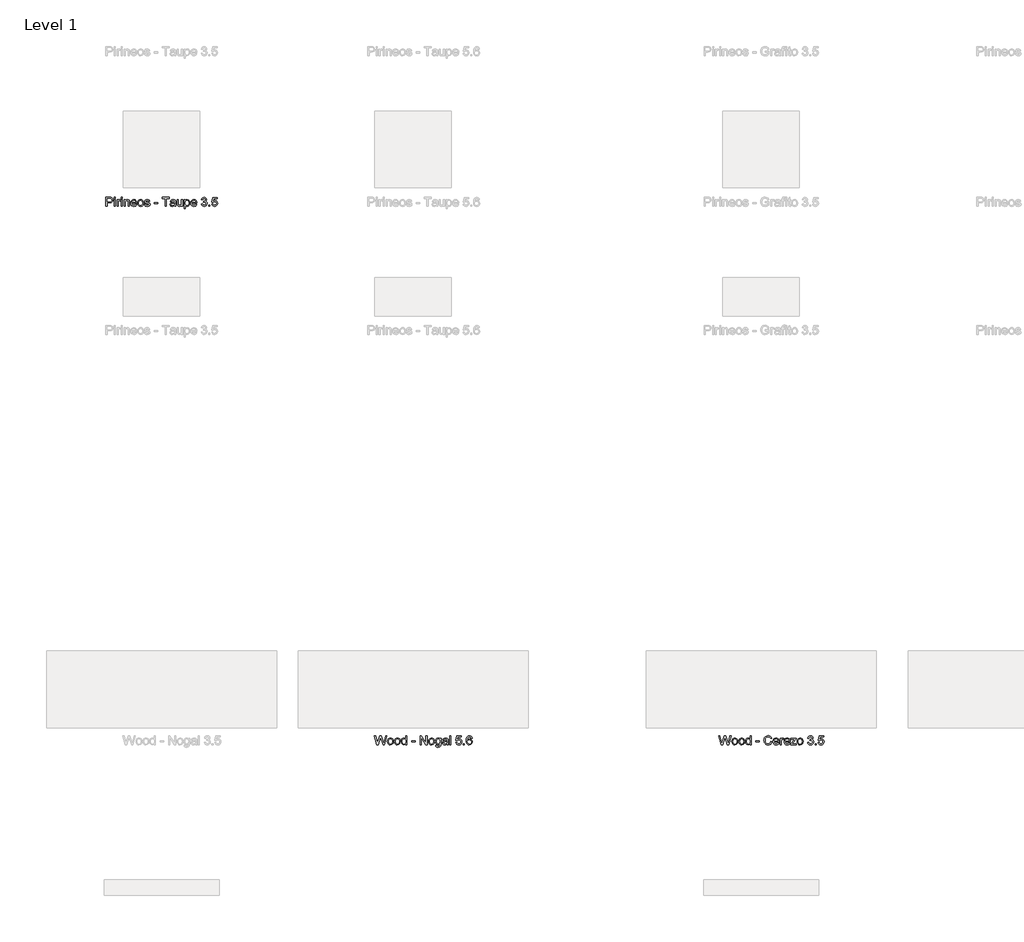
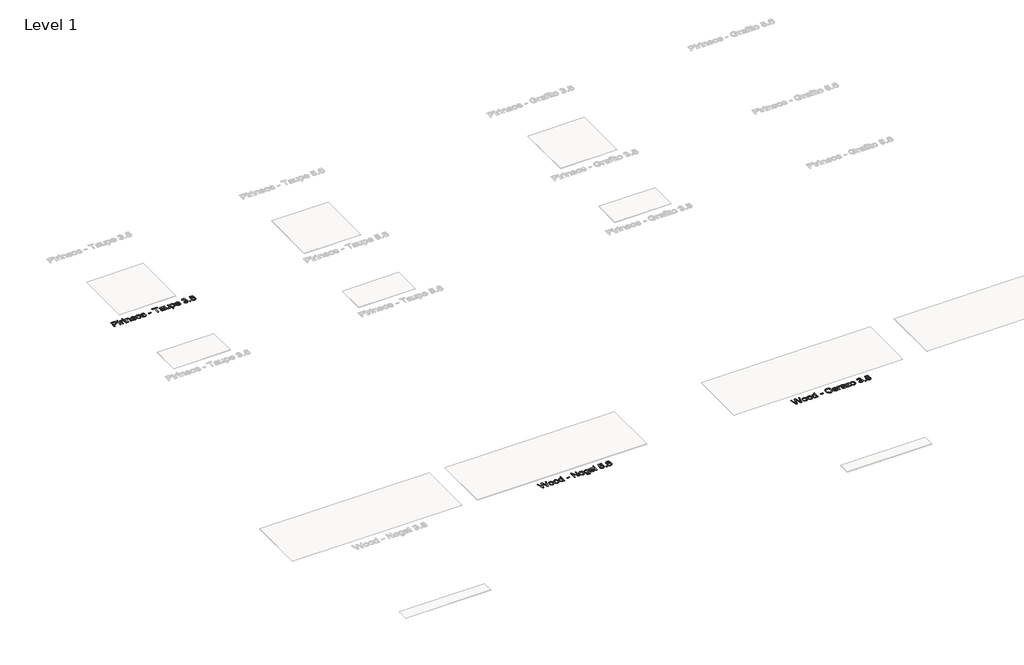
# One storey, part 25 of 80: 3 proxies.
"""IFC4 building model written with IfcOpenShell, lengths in millimetres."""

from ifc_helpers import new_model, si_unit, origin, origin_with_axes, place, context, project, spatial, polyline, outline, extrude, element, save

model = new_model("IFC4")

# Units and contexts
model_context = context("Model", 3, world=origin())
ifc_project = project(units=[si_unit("LENGTHUNIT", "METRE", prefix="MILLI")], contexts=[model_context])

# Site, building, storey
site = spatial("IfcSite", under=ifc_project)
building = spatial("IfcBuilding", under=site)
storey = spatial("IfcBuildingStorey", under=building, Name="Level 1", Elevation=0.0)

# Proxies
placement = place(None, origin())
element("IfcBuildingElementProxy", 1, Name="24\" Arial", ObjectType="24\" Arial", at=placement, inside=storey, context=model_context, shape_type="SweptSolid", body=[
    extrude(outline(polyline([(-7596.3934156, -7643.0201601), (-7628.6145694, -7524.8663139), (-7613.3838002, -7524.8663139), (-7594.6914925, -7602.5201601), (-7588.9222617, -7626.4913139), (-7582.7491848, -7605.2893908), (-7559.3261079, -7524.8663139), (-7537.3741848, -7524.8663139), (-7520.3549541, -7583.1643908), (-7507.6914925, -7626.4913139), (-7502.0953387, -7603.2124678), (-7483.2299541, -7524.8663139), (-7467.9991848, -7524.8663139), (-7500.2491848, -7643.0201601), (-7516.028031, -7643.0201601), (-7544.3549541, -7551.8663139), (-7548.3068771, -7539.1451601), (-7552.7491848, -7554.4624678), (-7578.5664925, -7643.0201601), (-7596.3934156, -7643.0201601)])), origin_with_axes(), (0.0, 0.0, 1.0), 2.0),
    extrude(outline(polyline([(-7458.7684156, -7599.6355447), (-7455.5737041, -7578.7148716), (-7445.9895694, -7564.0105447), (-7434.1482233, -7556.8062178), (-7419.9703387, -7554.4047755), (-7404.4547137, -7557.3290543), (-7392.0616848, -7566.1018908), (-7383.9378867, -7580.0309774), (-7381.2299541, -7598.4240062), (-7386.0184156, -7624.7028524), (-7399.965531, -7639.5730447), (-7419.9703387, -7644.8663139), (-7435.6734637, -7641.9528524), (-7448.0520694, -7633.2124678), (-7456.0893291, -7618.9913139), (-7458.7684156, -7599.6355447)]), holes=[polyline([(-7443.9991848, -7599.6066985), (-7442.2900502, -7612.9732851), (-7437.1626464, -7622.4961216), (-7429.4463002, -7628.1968428), (-7419.9703387, -7630.0970831), (-7410.5376464, -7628.1860255), (-7402.8357233, -7622.4528524), (-7397.7083194, -7612.8038139), (-7395.9991848, -7599.1451601), (-7397.7191367, -7586.1679966), (-7402.8789925, -7576.7749678), (-7410.5917329, -7571.0742466), (-7419.9703387, -7569.1740062), (-7429.4463002, -7571.0670351), (-7437.1626464, -7576.7461216), (-7442.2900502, -7586.2473235), (-7443.9991848, -7599.6066985)])]), origin_with_axes(), (0.0, 0.0, 1.0), 2.0),
    extrude(outline(polyline([(-7368.3068771, -7599.6355447), (-7365.1121656, -7578.7148716), (-7355.528031, -7564.0105447), (-7343.6866848, -7556.8062178), (-7329.5088002, -7554.4047755), (-7313.9931752, -7557.3290543), (-7301.6001464, -7566.1018908), (-7293.4763483, -7580.0309774), (-7290.7684156, -7598.4240062), (-7295.5568771, -7624.7028524), (-7309.5039925, -7639.5730447), (-7329.5088002, -7644.8663139), (-7345.2119252, -7641.9528524), (-7357.590531, -7633.2124678), (-7365.6277906, -7618.9913139), (-7368.3068771, -7599.6355447)]), holes=[polyline([(-7353.5376464, -7599.6066985), (-7351.8285117, -7612.9732851), (-7346.7011079, -7622.4961216), (-7338.9847617, -7628.1968428), (-7329.5088002, -7630.0970831), (-7320.0761079, -7628.1860255), (-7312.3741848, -7622.4528524), (-7307.246781, -7612.8038139), (-7305.5376464, -7599.1451601), (-7307.2575983, -7586.1679966), (-7312.4174541, -7576.7749678), (-7320.1301944, -7571.0742466), (-7329.5088002, -7569.1740062), (-7338.9847617, -7571.0670351), (-7346.7011079, -7576.7461216), (-7351.8285117, -7586.2473235), (-7353.5376464, -7599.6066985)])]), origin_with_axes(), (0.0, 0.0, 1.0), 2.0),
    extrude(outline(polyline([(-7220.6145694, -7643.0201601), (-7220.6145694, -7629.0874678), (-7230.3862041, -7640.9216024), (-7243.8934156, -7644.8663139), (-7262.1818771, -7639.1547755), (-7275.1049541, -7623.2172755), (-7279.6914925, -7599.7220831), (-7275.465531, -7576.2124678), (-7270.1866848, -7566.8879485), (-7262.8020694, -7560.0297755), (-7243.9511079, -7554.4047755), (-7230.3357233, -7558.4288139), (-7220.6145694, -7568.8855447), (-7220.6145694, -7524.8663139), (-7205.8453387, -7524.8663139), (-7205.8453387, -7643.0201601), (-7220.6145694, -7643.0201601)]), holes=[polyline([(-7264.9222617, -7599.6643908), (-7263.2563964, -7613.0237658), (-7258.2588002, -7622.5249678), (-7250.996781, -7628.2040543), (-7242.5376464, -7630.0970831), (-7234.0821175, -7628.2905928), (-7227.0039925, -7622.8711216), (-7222.2119252, -7613.7377081), (-7220.6145694, -7600.7893908), (-7222.2407714, -7586.6331408), (-7227.1193771, -7576.818237), (-7234.3777906, -7571.0850639), (-7243.1434156, -7569.1740062), (-7251.6890887, -7571.0093428), (-7258.6914925, -7576.5153524), (-7263.3645694, -7585.9732851), (-7264.9222617, -7599.6643908)])]), origin_with_axes(), (0.0, 0.0, 1.0), 2.0),
    extrude(outline(polyline([(-7144.9222617, -7607.943237), (-7144.9222617, -7593.1740062), (-7098.7684156, -7593.1740062), (-7098.7684156, -7607.943237), (-7144.9222617, -7607.943237)])), origin_with_axes(), (0.0, 0.0, 1.0), 2.0),
    extrude(outline(polyline([(-7034.153031, -7643.0201601), (-7034.153031, -7524.8663139), (-7018.3453387, -7524.8663139), (-6956.6145694, -7618.4720831), (-6956.6145694, -7524.8663139), (-6941.8453387, -7524.8663139), (-6941.8453387, -7643.0201601), (-6957.653031, -7643.0201601), (-7019.3838002, -7549.3855447), (-7019.3838002, -7643.0201601), (-7034.153031, -7643.0201601)])), origin_with_axes(), (0.0, 0.0, 1.0), 2.0),
    extrude(outline(polyline([(-6921.5376464, -7599.6355447), (-6918.3429348, -7578.7148716), (-6908.7588002, -7564.0105447), (-6896.9174541, -7556.8062178), (-6882.7395694, -7554.4047755), (-6867.2239444, -7557.3290543), (-6854.8309156, -7566.1018908), (-6846.7071175, -7580.0309774), (-6843.9991848, -7598.4240062), (-6848.7876464, -7624.7028524), (-6862.7347617, -7639.5730447), (-6882.7395694, -7644.8663139), (-6898.4426944, -7641.9528524), (-6910.8213002, -7633.2124678), (-6918.8585598, -7618.9913139), (-6921.5376464, -7599.6355447)]), holes=[polyline([(-6906.7684156, -7599.6066985), (-6905.059281, -7612.9732851), (-6899.9318771, -7622.4961216), (-6892.215531, -7628.1968428), (-6882.7395694, -7630.0970831), (-6873.3068771, -7628.1860255), (-6865.6049541, -7622.4528524), (-6860.4775502, -7612.8038139), (-6858.7684156, -7599.1451601), (-6860.4883675, -7586.1679966), (-6865.6482233, -7576.7749678), (-6873.3609637, -7571.0742466), (-6882.7395694, -7569.1740062), (-6892.215531, -7571.0670351), (-6899.9318771, -7576.7461216), (-6905.059281, -7586.2473235), (-6906.7684156, -7599.6066985)])]), origin_with_axes(), (0.0, 0.0, 1.0), 2.0),
    extrude(outline(polyline([(-6831.0761079, -7650.4047755), (-6816.3068771, -7652.2509293), (-6811.5184156, -7660.0393908), (-6797.1818771, -7663.3278524), (-6782.0664925, -7659.6066985), (-6774.8549541, -7649.1643908), (-6773.8453387, -7631.943237), (-6784.2443771, -7640.2509293), (-6796.9222617, -7643.0201601), (-6812.1494252, -7639.7966024), (-6823.5039925, -7630.1259293), (-6830.5676944, -7615.9480447), (-6832.9222617, -7599.2028524), (-6828.6963002, -7576.3134293), (-6816.465531, -7560.1163139), (-6797.6434156, -7554.4047755), (-6784.4679348, -7557.6355447), (-6773.8453387, -7567.3278524), (-6773.8453387, -7556.2509293), (-6759.0761079, -7556.2509293), (-6759.0761079, -7631.1643908), (-6763.1145694, -7659.8518908), (-6775.9078387, -7673.193237), (-6797.4703387, -7678.0970831), (-6811.2119252, -7676.3699197), (-6822.0328387, -7671.1884293), (-6828.9739444, -7662.5381889), (-6831.0761079, -7650.4047755)]), holes=[polyline([(-6818.153031, -7598.193237), (-6816.5773098, -7611.740112), (-6811.8501464, -7621.0538139), (-6804.7431752, -7626.4516505), (-6796.028031, -7628.2509293), (-6787.3777906, -7626.4624678), (-6780.2347617, -7621.0970831), (-6775.4426944, -7611.9023716), (-6773.8453387, -7598.6259293), (-6775.4895694, -7585.8218428), (-6780.4222617, -7576.6018908), (-6787.6698579, -7571.0309774), (-6796.2588002, -7569.1740062), (-6804.6926944, -7571.0021312), (-6811.7636079, -7576.4865062), (-6816.5556752, -7585.5694389), (-6818.153031, -7598.193237)])]), origin_with_axes(), (0.0, 0.0, 1.0), 2.0),
    extrude(outline(polyline([(-6681.5376464, -7631.943237), (-6695.8597617, -7641.9528524), (-6711.6818771, -7644.8663139), (-6724.0244252, -7643.1139101), (-6733.1289925, -7637.8566985), (-6738.7431752, -7629.8735255), (-6740.6145694, -7619.943237), (-6737.7876464, -7608.2605447), (-6730.3597617, -7599.7797755), (-6720.0184156, -7594.9336216), (-6707.2395694, -7592.7124678), (-6681.6241848, -7587.6355447), (-6681.5376464, -7584.3470831), (-6685.6049541, -7573.443237), (-6701.9318771, -7569.1740062), (-6716.8741848, -7572.0153524), (-6723.9991848, -7582.0970831), (-6738.7684156, -7580.2509293), (-6732.3789925, -7565.8278524), (-6719.5136079, -7557.3759293), (-6700.028031, -7554.4047755), (-6682.1289925, -7557.0297755), (-6672.0184156, -7563.6211216), (-6667.4895694, -7573.6451601), (-6666.7684156, -7586.568237), (-6666.7684156, -7604.943237), (-6666.0184156, -7630.6018908), (-6663.0761079, -7643.0201601), (-6677.8453387, -7643.0201601), (-6681.5376464, -7631.943237)]), holes=[polyline([(-6681.5376464, -7602.4047755), (-6705.3645694, -7606.9336216), (-6718.0713002, -7609.3278524), (-6723.8261079, -7613.2220831), (-6725.8453387, -7618.9047755), (-6721.4463002, -7626.8951601), (-6708.5376464, -7630.0970831), (-6693.5953387, -7626.5634293), (-6683.9607233, -7618.0105447), (-6681.6241848, -7606.5874678), (-6681.5376464, -7602.4047755)])]), origin_with_axes(), (0.0, 0.0, 1.0), 2.0),
    extrude(outline(polyline([(-6646.4607233, -7643.0201601), (-6646.4607233, -7524.8663139), (-6631.6914925, -7524.8663139), (-6631.6914925, -7643.0201601), (-6646.4607233, -7643.0201601)])), origin_with_axes(), (0.0, 0.0, 1.0), 2.0),
    extrude(outline(polyline([(-6567.0761079, -7611.6355447), (-6552.3068771, -7609.7893908), (-6544.8645694, -7625.005737), (-6529.4318771, -7630.0970831), (-6518.8453387, -7628.3266505), (-6510.9126464, -7623.0153524), (-6505.9583194, -7614.7761697), (-6504.3068771, -7604.2220831), (-6505.8537521, -7594.2845831), (-6510.4943771, -7586.6836216), (-6518.2648098, -7581.8591024), (-6529.2011079, -7580.2509293), (-6542.1674541, -7582.818237), (-6550.4607233, -7589.4816985), (-6565.2299541, -7587.6355447), (-6552.3068771, -7526.7124678), (-6495.0761079, -7526.7124678), (-6495.0761079, -7541.4816985), (-6540.3645694, -7541.4816985), (-6546.6818771, -7574.0201601), (-6536.1313964, -7567.6163139), (-6525.0761079, -7565.4816985), (-6511.2768291, -7568.1283331), (-6499.8213002, -7576.068237), (-6492.1085598, -7588.1691985), (-6489.5376464, -7603.2990062), (-6491.8525502, -7618.068237), (-6498.7972617, -7630.7028524), (-6512.0953387, -7641.3254485), (-6529.4895694, -7644.8663139), (-6543.9955791, -7642.5910735), (-6555.5520694, -7635.7653524), (-6563.4739444, -7625.1824197), (-6567.0761079, -7611.6355447)])), origin_with_axes(), (0.0, 0.0, 1.0), 2.0),
    extrude(outline(polyline([(-6469.2299541, -7643.0201601), (-6469.2299541, -7628.2509293), (-6454.4607233, -7628.2509293), (-6454.4607233, -7643.0201601), (-6469.2299541, -7643.0201601)])), origin_with_axes(), (0.0, 0.0, 1.0), 2.0),
    extrude(outline(polyline([(-6354.7684156, -7556.2509293), (-6369.5376464, -7558.0970831), (-6375.1338002, -7545.7797755), (-6381.8333194, -7541.1716024), (-6389.9318771, -7539.6355447), (-6403.2588002, -7543.2124678), (-6413.340531, -7556.6403524), (-6417.5376464, -7582.9624678), (-6404.5136079, -7571.1788139), (-6388.3741848, -7567.3278524), (-6374.7299541, -7569.9600639), (-6363.278031, -7577.8566985), (-6355.5112041, -7589.9216024), (-6352.9222617, -7605.0586216), (-6357.7972617, -7625.4384293), (-6371.2107233, -7639.8615062), (-6390.5664925, -7644.8663139), (-6407.3225021, -7641.5490062), (-6420.6674541, -7631.5970831), (-6429.3970214, -7614.0297755), (-6432.3068771, -7587.8663139), (-6429.0761079, -7558.4504485), (-6419.3838002, -7538.3374678), (-6406.1506271, -7528.2341024), (-6389.0088002, -7524.8663139), (-6376.0496656, -7526.9504485), (-6365.6722617, -7533.2028524), (-6358.403031, -7543.1331408), (-6354.7684156, -7556.2509293)]), holes=[polyline([(-6417.5376464, -7604.8278524), (-6414.1193771, -7617.6211216), (-6405.0328387, -7626.9095831), (-6391.7203387, -7630.0970831), (-6381.9739444, -7628.4456408), (-6374.3116848, -7623.4913139), (-6369.3465406, -7615.7028524), (-6367.6914925, -7605.5490062), (-6369.324906, -7595.802612), (-6374.2251464, -7588.3711216), (-6382.0172137, -7583.6655928), (-6392.3261079, -7582.0970831), (-6402.0580791, -7583.6655928), (-6410.1963002, -7588.3711216), (-6415.7023098, -7595.6223235), (-6417.5376464, -7604.8278524)])]), origin_with_axes(), (0.0, 0.0, 1.0), 2.0),
])
element("IfcBuildingElementProxy", 2, Name="24\" Arial", ObjectType="24\" Arial", at=placement, inside=storey, context=model_context, shape_type="SweptSolid", body=[
    extrude(outline(polyline([(-11130.153031, -616.5984808), (-11130.153031, -498.4446346), (-11086.3645694, -498.4446346), (-11068.7107233, -499.5696346), (-11054.3597617, -505.0936731), (-11045.0568771, -516.51675), (-11041.5376464, -532.6273269), (-11043.9138483, -546.5528077), (-11051.0424541, -558.1561731), (-11064.3729829, -565.9879038), (-11085.3549541, -568.5984808), (-11115.3838002, -568.5984808), (-11115.3838002, -616.5984808), (-11130.153031, -616.5984808)]), holes=[polyline([(-11115.3838002, -553.82925), (-11084.4895694, -553.82925), (-11071.3934156, -552.4734808), (-11062.7395694, -548.4061731), (-11057.9150502, -541.8797308), (-11056.3068771, -533.1465577), (-11060.1001464, -520.9157884), (-11070.0664925, -514.2234808), (-11084.8357233, -513.2138654), (-11115.3838002, -513.2138654), (-11115.3838002, -553.82925)])]), origin_with_axes(), (0.0, 0.0, 1.0), 2.0),
    extrude(outline(polyline([(-11023.0761079, -616.5984808), (-11023.0761079, -529.82925), (-11008.3068771, -529.82925), (-11008.3068771, -616.5984808), (-11023.0761079, -616.5984808)])), origin_with_axes(), (0.0, 0.0, 1.0), 2.0),
    extrude(outline(polyline([(-11023.0761079, -513.2138654), (-11023.0761079, -498.4446346), (-11008.3068771, -498.4446346), (-11008.3068771, -513.2138654), (-11023.0761079, -513.2138654)])), origin_with_axes(), (0.0, 0.0, 1.0), 2.0),
    extrude(outline(polyline([(-10986.153031, -616.5984808), (-10986.153031, -529.82925), (-10973.2299541, -529.82925), (-10973.2299541, -542.6657884), (-10964.0568771, -530.8388654), (-10954.8261079, -527.9830961), (-10939.9991848, -532.5407884), (-10944.9318771, -545.7811731), (-10955.3164925, -542.7523269), (-10963.6674541, -545.6657884), (-10968.9895694, -553.7427115), (-10971.3838002, -570.9927115), (-10971.3838002, -616.5984808), (-10986.153031, -616.5984808)])), origin_with_axes(), (0.0, 0.0, 1.0), 2.0),
    extrude(outline(polyline([(-10930.7684156, -616.5984808), (-10930.7684156, -529.82925), (-10915.9991848, -529.82925), (-10915.9991848, -616.5984808), (-10930.7684156, -616.5984808)])), origin_with_axes(), (0.0, 0.0, 1.0), 2.0),
    extrude(outline(polyline([(-10930.7684156, -513.2138654), (-10930.7684156, -498.4446346), (-10915.9991848, -498.4446346), (-10915.9991848, -513.2138654), (-10930.7684156, -513.2138654)])), origin_with_axes(), (0.0, 0.0, 1.0), 2.0),
    extrude(outline(polyline([(-10893.8453387, -616.5984808), (-10893.8453387, -529.82925), (-10879.0761079, -529.82925), (-10879.0761079, -541.9446346), (-10867.7828387, -531.4734808), (-10852.3645694, -527.9830961), (-10838.4174541, -530.7955961), (-10828.8982233, -538.1802115), (-10824.4703387, -549.0407884), (-10823.6914925, -563.3196346), (-10823.6914925, -616.5984808), (-10838.4607233, -616.5984808), (-10838.4607233, -565.3100192), (-10840.1626464, -552.2427115), (-10846.1770694, -545.3340577), (-10856.3164925, -542.7523269), (-10872.340531, -548.5504038), (-10877.3922137, -556.9518461), (-10879.0761079, -570.5600192), (-10879.0761079, -616.5984808), (-10893.8453387, -616.5984808)])), origin_with_axes(), (0.0, 0.0, 1.0), 2.0),
    extrude(outline(polyline([(-10742.6338002, -590.7523269), (-10728.153031, -592.5984808), (-10733.3705791, -603.5095384), (-10741.6963002, -611.6657884), (-10752.9426944, -616.7499231), (-10766.9222617, -618.4446346), (-10784.2515887, -615.5203558), (-10797.5857233, -606.7475192), (-10806.0881271, -592.6958365), (-10808.9222617, -573.9350192), (-10806.059281, -554.5431923), (-10797.4703387, -540.0407884), (-10784.3164925, -530.9975192), (-10767.7588002, -527.9830961), (-10751.7167329, -530.9903077), (-10738.8982233, -540.0119423), (-10730.4931752, -554.4855), (-10727.6914925, -573.8484808), (-10727.778031, -577.82925), (-10794.153031, -577.82925), (-10791.5965406, -588.8845384), (-10785.6578387, -597.0119423), (-10777.0869252, -602.0095384), (-10766.6338002, -603.6754038), (-10752.153031, -600.5888654), (-10742.6338002, -590.7523269)]), holes=[polyline([(-10794.153031, -563.0600192), (-10742.4607233, -563.0600192), (-10748.3741848, -549.6754038), (-10756.9847617, -544.4830961), (-10767.8164925, -542.7523269), (-10786.0039925, -548.2763654), (-10791.7263483, -554.7342981), (-10794.153031, -563.0600192)])]), origin_with_axes(), (0.0, 0.0, 1.0), 2.0),
    extrude(outline(polyline([(-10716.6145694, -573.2138654), (-10713.4198579, -552.2931923), (-10703.8357233, -537.5888654), (-10691.9943771, -530.3845384), (-10677.8164925, -527.9830961), (-10662.3008675, -530.907375), (-10649.9078387, -539.6802115), (-10641.7840406, -553.6092981), (-10639.0761079, -572.0023269), (-10643.8645694, -598.2811731), (-10657.8116848, -613.1513654), (-10677.8164925, -618.4446346), (-10693.5196175, -615.5311731), (-10705.8982233, -606.7907884), (-10713.9354829, -592.5696346), (-10716.6145694, -573.2138654)]), holes=[polyline([(-10701.8453387, -573.1850192), (-10700.1362041, -586.5516058), (-10695.0088002, -596.0744423), (-10687.2924541, -601.7751634), (-10677.8164925, -603.6754038), (-10668.3838002, -601.7643461), (-10660.6818771, -596.0311731), (-10655.5544733, -586.3821346), (-10653.8453387, -572.7234808), (-10655.5652906, -559.7463173), (-10660.7251464, -550.3532884), (-10668.4378867, -544.6525673), (-10677.8164925, -542.7523269), (-10687.2924541, -544.6453558), (-10695.0088002, -550.3244423), (-10700.1362041, -559.8256442), (-10701.8453387, -573.1850192)])]), origin_with_axes(), (0.0, 0.0, 1.0), 2.0),
    extrude(outline(polyline([(-10627.9991848, -590.7523269), (-10613.2299541, -588.9061731), (-10606.3934156, -599.8677115), (-10590.7299541, -603.6754038), (-10575.6722617, -600.1850192), (-10570.7684156, -591.9927115), (-10575.7011079, -585.3580961), (-10590.903031, -581.1465577), (-10613.1434156, -573.9205961), (-10622.8501464, -565.4830961), (-10626.153031, -553.5696346), (-10623.4991848, -542.5648269), (-10616.2588002, -534.1561731), (-10606.8693771, -529.7859808), (-10594.1626464, -527.9830961), (-10576.1914925, -530.8821346), (-10564.7684156, -538.7282884), (-10559.6914925, -551.9830961), (-10574.4607233, -553.82925), (-10580.0136079, -545.6802115), (-10593.0088002, -542.7523269), (-10607.1434156, -545.5504038), (-10611.3838002, -552.0696346), (-10609.6241848, -556.3677115), (-10604.1145694, -559.6273269), (-10591.3934156, -562.7715577), (-10569.715531, -569.7234808), (-10559.6482233, -577.5984808), (-10555.9991848, -590.4350192), (-10560.2828387, -604.5696346), (-10572.6434156, -614.8244423), (-10590.9318771, -618.4446346), (-10605.8237041, -616.6994423), (-10616.6914925, -611.4638654), (-10623.9463002, -602.7955961), (-10627.9991848, -590.7523269)])), origin_with_axes(), (0.0, 0.0, 1.0), 2.0),
    extrude(outline(polyline([(-10500.6145694, -581.5215577), (-10500.6145694, -566.7523269), (-10454.4607233, -566.7523269), (-10454.4607233, -581.5215577), (-10500.6145694, -581.5215577)])), origin_with_axes(), (0.0, 0.0, 1.0), 2.0),
    extrude(outline(polyline([(-10360.3068771, -616.5984808), (-10360.3068771, -513.2138654), (-10399.0761079, -513.2138654), (-10399.0761079, -498.4446346), (-10306.7684156, -498.4446346), (-10306.7684156, -513.2138654), (-10345.5376464, -513.2138654), (-10345.5376464, -616.5984808), (-10360.3068771, -616.5984808)])), origin_with_axes(), (0.0, 0.0, 1.0), 2.0),
    extrude(outline(polyline([(-10236.6145694, -605.5215577), (-10250.9366848, -615.5311731), (-10266.7588002, -618.4446346), (-10279.1013483, -616.6922308), (-10288.2059156, -611.4350192), (-10293.8200983, -603.4518461), (-10295.6914925, -593.5215577), (-10292.8645694, -581.8388654), (-10285.4366848, -573.3580961), (-10275.0953387, -568.5119423), (-10262.3164925, -566.2907884), (-10236.7011079, -561.2138654), (-10236.6145694, -557.9254038), (-10240.6818771, -547.0215577), (-10257.0088002, -542.7523269), (-10271.9511079, -545.5936731), (-10279.0761079, -555.6754038), (-10293.8453387, -553.82925), (-10287.4559156, -539.4061731), (-10274.590531, -530.95425), (-10255.1049541, -527.9830961), (-10237.2059156, -530.6080961), (-10227.0953387, -537.1994423), (-10222.5664925, -547.2234808), (-10221.8453387, -560.1465577), (-10221.8453387, -578.5215577), (-10221.0953387, -604.1802115), (-10218.153031, -616.5984808), (-10232.9222617, -616.5984808), (-10236.6145694, -605.5215577)]), holes=[polyline([(-10236.6145694, -575.9830961), (-10260.4414925, -580.5119423), (-10273.1482233, -582.9061731), (-10278.903031, -586.8004038), (-10280.9222617, -592.4830961), (-10276.5232233, -600.4734808), (-10263.6145694, -603.6754038), (-10248.6722617, -600.14175), (-10239.0376464, -591.5888654), (-10236.7011079, -580.1657884), (-10236.6145694, -575.9830961)])]), origin_with_axes(), (0.0, 0.0, 1.0), 2.0),
    extrude(outline(polyline([(-10146.153031, -616.5984808), (-10146.153031, -601.6850192), (-10157.7203387, -614.2547308), (-10172.8068771, -618.4446346), (-10186.6963002, -615.5023269), (-10196.2732233, -608.1177115), (-10200.6722617, -597.2427115), (-10201.5376464, -583.5119423), (-10201.5376464, -529.82925), (-10186.7684156, -529.82925), (-10186.7684156, -576.5600192), (-10185.8741848, -591.6177115), (-10180.0328387, -600.4590577), (-10169.028031, -603.6754038), (-10156.6963002, -600.3869423), (-10148.5472617, -591.4302115), (-10146.153031, -574.9734808), (-10146.153031, -529.82925), (-10131.3838002, -529.82925), (-10131.3838002, -616.5984808), (-10146.153031, -616.5984808)])), origin_with_axes(), (0.0, 0.0, 1.0), 2.0),
    extrude(outline(polyline([(-10111.0761079, -649.82925), (-10111.0761079, -529.82925), (-10096.3068771, -529.82925), (-10096.3068771, -544.3100192), (-10086.0953387, -532.0648269), (-10072.3068771, -527.9830961), (-10053.5857233, -533.6946346), (-10041.3549541, -549.7907884), (-10037.2299541, -572.5504038), (-10041.8886079, -596.4782884), (-10047.6001464, -605.8677115), (-10055.4174541, -612.7763654), (-10074.0953387, -618.4446346), (-10086.9463002, -614.6513654), (-10096.3068771, -605.0600192), (-10096.3068771, -649.82925), (-10111.0761079, -649.82925)]), holes=[polyline([(-10096.3068771, -573.9061731), (-10094.7095214, -587.1465577), (-10089.9174541, -596.4061731), (-10082.8465406, -601.8580961), (-10074.4126464, -603.6754038), (-10065.8417329, -601.7931923), (-10058.590531, -596.1465577), (-10053.6470214, -586.548), (-10051.9991848, -572.8100192), (-10053.6073579, -559.64175), (-10058.4318771, -550.2523269), (-10065.4919733, -544.6273269), (-10073.8068771, -542.7523269), (-10082.1542329, -544.7463173), (-10089.4847617, -550.7282884), (-10094.6013483, -560.5107404), (-10096.3068771, -573.9061731)])]), origin_with_axes(), (0.0, 0.0, 1.0), 2.0),
    extrude(outline(polyline([(-9959.8645694, -590.7523269), (-9945.3838002, -592.5984808), (-9950.6013483, -603.5095384), (-9958.9270694, -611.6657884), (-9970.1734637, -616.7499231), (-9984.153031, -618.4446346), (-10001.4823579, -615.5203558), (-10014.8164925, -606.7475192), (-10023.3188964, -592.6958365), (-10026.153031, -573.9350192), (-10023.2900502, -554.5431923), (-10014.7011079, -540.0407884), (-10001.5472617, -530.9975192), (-9984.9895694, -527.9830961), (-9968.9475021, -530.9903077), (-9956.1289925, -540.0119423), (-9947.7239444, -554.4855), (-9944.9222617, -573.8484808), (-9945.0088002, -577.82925), (-10011.3838002, -577.82925), (-10008.8273098, -588.8845384), (-10002.8886079, -597.0119423), (-9994.3176944, -602.0095384), (-9983.8645694, -603.6754038), (-9969.3838002, -600.5888654), (-9959.8645694, -590.7523269)]), holes=[polyline([(-10011.3838002, -563.0600192), (-9959.6914925, -563.0600192), (-9965.6049541, -549.6754038), (-9974.215531, -544.4830961), (-9985.0472617, -542.7523269), (-10003.2347617, -548.2763654), (-10008.9571175, -554.7342981), (-10011.3838002, -563.0600192)])]), origin_with_axes(), (0.0, 0.0, 1.0), 2.0),
    extrude(outline(polyline([(-9887.6914925, -585.2138654), (-9872.9222617, -583.3677115), (-9864.7732233, -598.9157884), (-9849.528031, -603.6754038), (-9839.403031, -602.0383846), (-9831.5857233, -597.1273269), (-9826.5881271, -589.8004038), (-9824.9222617, -580.9157884), (-9826.5737041, -572.4818942), (-9831.528031, -565.64175), (-9839.028031, -561.1092981), (-9848.3164925, -559.5984808), (-9858.6722617, -561.2138654), (-9857.028031, -546.4446346), (-9854.6626464, -546.6177115), (-9837.903031, -542.3773269), (-9832.3213002, -536.9975192), (-9830.4607233, -529.3388654), (-9835.8549541, -517.7859808), (-9849.7588002, -513.2138654), (-9863.8357233, -517.82925), (-9871.0761079, -531.6754038), (-9885.8453387, -529.82925), (-9881.496781, -516.5672308), (-9873.7588002, -506.6657884), (-9863.1722617, -500.4999231), (-9850.278031, -498.4446346), (-9832.465531, -502.4975192), (-9820.0039925, -513.5744423), (-9815.6914925, -528.4734808), (-9819.7876464, -542.0888654), (-9831.903031, -551.8677115), (-9822.6578387, -555.6032884), (-9815.8068771, -561.9638654), (-9811.5664925, -570.6032884), (-9810.153031, -581.1754038), (-9812.9799541, -595.5696346), (-9821.4607233, -607.5984808), (-9834.2612041, -615.7330961), (-9850.0472617, -618.4446346), (-9864.3261079, -616.1297308), (-9875.9511079, -609.1850192), (-9884.0352425, -598.5624231), (-9887.6914925, -585.2138654)])), origin_with_axes(), (0.0, 0.0, 1.0), 2.0),
    extrude(outline(polyline([(-9789.8453387, -616.5984808), (-9789.8453387, -601.82925), (-9775.0761079, -601.82925), (-9775.0761079, -616.5984808), (-9789.8453387, -616.5984808)])), origin_with_axes(), (0.0, 0.0, 1.0), 2.0),
    extrude(outline(polyline([(-9751.0761079, -585.2138654), (-9736.3068771, -583.3677115), (-9728.8645694, -598.5840577), (-9713.4318771, -603.6754038), (-9702.8453387, -601.9049711), (-9694.9126464, -596.5936731), (-9689.9583194, -588.3544904), (-9688.3068771, -577.8004038), (-9689.8537521, -567.8629038), (-9694.4943771, -560.2619423), (-9702.2648098, -555.4374231), (-9713.2011079, -553.82925), (-9726.1674541, -556.3965577), (-9734.4607233, -563.0600192), (-9749.2299541, -561.2138654), (-9736.3068771, -500.2907884), (-9679.0761079, -500.2907884), (-9679.0761079, -515.0600192), (-9724.3645694, -515.0600192), (-9730.6818771, -547.5984808), (-9720.1313964, -541.1946346), (-9709.0761079, -539.0600192), (-9695.2768291, -541.7066538), (-9683.8213002, -549.6465577), (-9676.1085598, -561.7475192), (-9673.5376464, -576.8773269), (-9675.8525502, -591.6465577), (-9682.7972617, -604.2811731), (-9696.0953387, -614.9037692), (-9713.4895694, -618.4446346), (-9727.9955791, -616.1693942), (-9739.5520694, -609.3436731), (-9747.4739444, -598.7607404), (-9751.0761079, -585.2138654)])), origin_with_axes(), (0.0, 0.0, 1.0), 2.0),
])
element("IfcBuildingElementProxy", 3, Name="24\" Arial", ObjectType="24\" Arial", at=placement, inside=storey, context=model_context, shape_type="SweptSolid", body=[
    extrude(outline(polyline([(-3105.3164925, -7643.0201601), (-3137.5376464, -7524.8663139), (-3122.3068771, -7524.8663139), (-3103.6145694, -7602.5201601), (-3097.8453387, -7626.4913139), (-3091.6722617, -7605.2893908), (-3068.2491848, -7524.8663139), (-3046.2972617, -7524.8663139), (-3029.278031, -7583.1643908), (-3016.6145694, -7626.4913139), (-3011.0184156, -7603.2124678), (-2992.153031, -7524.8663139), (-2976.9222617, -7524.8663139), (-3009.1722617, -7643.0201601), (-3024.9511079, -7643.0201601), (-3053.278031, -7551.8663139), (-3057.2299541, -7539.1451601), (-3061.6722617, -7554.4624678), (-3087.4895694, -7643.0201601), (-3105.3164925, -7643.0201601)])), origin_with_axes(), (0.0, 0.0, 1.0), 2.0),
    extrude(outline(polyline([(-2967.6914925, -7599.6355447), (-2964.496781, -7578.7148716), (-2954.9126464, -7564.0105447), (-2943.0713002, -7556.8062178), (-2928.8934156, -7554.4047755), (-2913.3777906, -7557.3290543), (-2900.9847617, -7566.1018908), (-2892.8609637, -7580.0309774), (-2890.153031, -7598.4240062), (-2894.9414925, -7624.7028524), (-2908.8886079, -7639.5730447), (-2928.8934156, -7644.8663139), (-2944.5965406, -7641.9528524), (-2956.9751464, -7633.2124678), (-2965.012406, -7618.9913139), (-2967.6914925, -7599.6355447)]), holes=[polyline([(-2952.9222617, -7599.6066985), (-2951.2131271, -7612.9732851), (-2946.0857233, -7622.4961216), (-2938.3693771, -7628.1968428), (-2928.8934156, -7630.0970831), (-2919.4607233, -7628.1860255), (-2911.7588002, -7622.4528524), (-2906.6313964, -7612.8038139), (-2904.9222617, -7599.1451601), (-2906.6422137, -7586.1679966), (-2911.8020694, -7576.7749678), (-2919.5148098, -7571.0742466), (-2928.8934156, -7569.1740062), (-2938.3693771, -7571.0670351), (-2946.0857233, -7576.7461216), (-2951.2131271, -7586.2473235), (-2952.9222617, -7599.6066985)])]), origin_with_axes(), (0.0, 0.0, 1.0), 2.0),
    extrude(outline(polyline([(-2877.2299541, -7599.6355447), (-2874.0352425, -7578.7148716), (-2864.4511079, -7564.0105447), (-2852.6097617, -7556.8062178), (-2838.4318771, -7554.4047755), (-2822.9162521, -7557.3290543), (-2810.5232233, -7566.1018908), (-2802.3994252, -7580.0309774), (-2799.6914925, -7598.4240062), (-2804.4799541, -7624.7028524), (-2818.4270694, -7639.5730447), (-2838.4318771, -7644.8663139), (-2854.1350021, -7641.9528524), (-2866.5136079, -7633.2124678), (-2874.5508675, -7618.9913139), (-2877.2299541, -7599.6355447)]), holes=[polyline([(-2862.4607233, -7599.6066985), (-2860.7515887, -7612.9732851), (-2855.6241848, -7622.4961216), (-2847.9078387, -7628.1968428), (-2838.4318771, -7630.0970831), (-2828.9991848, -7628.1860255), (-2821.2972617, -7622.4528524), (-2816.1698579, -7612.8038139), (-2814.4607233, -7599.1451601), (-2816.1806752, -7586.1679966), (-2821.340531, -7576.7749678), (-2829.0532714, -7571.0742466), (-2838.4318771, -7569.1740062), (-2847.9078387, -7571.0670351), (-2855.6241848, -7576.7461216), (-2860.7515887, -7586.2473235), (-2862.4607233, -7599.6066985)])]), origin_with_axes(), (0.0, 0.0, 1.0), 2.0),
    extrude(outline(polyline([(-2729.5376464, -7643.0201601), (-2729.5376464, -7629.0874678), (-2739.309281, -7640.9216024), (-2752.8164925, -7644.8663139), (-2771.1049541, -7639.1547755), (-2784.028031, -7623.2172755), (-2788.6145694, -7599.7220831), (-2784.3886079, -7576.2124678), (-2779.1097617, -7566.8879485), (-2771.7251464, -7560.0297755), (-2752.8741848, -7554.4047755), (-2739.2588002, -7558.4288139), (-2729.5376464, -7568.8855447), (-2729.5376464, -7524.8663139), (-2714.7684156, -7524.8663139), (-2714.7684156, -7643.0201601), (-2729.5376464, -7643.0201601)]), holes=[polyline([(-2773.8453387, -7599.6643908), (-2772.1794733, -7613.0237658), (-2767.1818771, -7622.5249678), (-2759.9198579, -7628.2040543), (-2751.4607233, -7630.0970831), (-2743.0051944, -7628.2905928), (-2735.9270694, -7622.8711216), (-2731.1350021, -7613.7377081), (-2729.5376464, -7600.7893908), (-2731.1638483, -7586.6331408), (-2736.0424541, -7576.818237), (-2743.3008675, -7571.0850639), (-2752.0664925, -7569.1740062), (-2760.6121656, -7571.0093428), (-2767.6145694, -7576.5153524), (-2772.2876464, -7585.9732851), (-2773.8453387, -7599.6643908)])]), origin_with_axes(), (0.0, 0.0, 1.0), 2.0),
    extrude(outline(polyline([(-2653.8453387, -7607.943237), (-2653.8453387, -7593.1740062), (-2607.6914925, -7593.1740062), (-2607.6914925, -7607.943237), (-2653.8453387, -7607.943237)])), origin_with_axes(), (0.0, 0.0, 1.0), 2.0),
    extrude(outline(polyline([(-2459.9991848, -7601.0201601), (-2445.2299541, -7604.8278524), (-2452.0448579, -7622.0381889), (-2462.7395694, -7634.6115062), (-2476.7876464, -7642.302612), (-2493.6626464, -7644.8663139), (-2510.793656, -7642.9264101), (-2524.3982233, -7637.1066985), (-2534.8261079, -7627.6091024), (-2542.4270694, -7614.6355447), (-2547.0676944, -7599.3831408), (-2548.6145694, -7583.0490062), (-2546.8657714, -7565.8206408), (-2541.6193771, -7550.943237), (-2533.1494252, -7538.8891505), (-2521.7299541, -7530.130737), (-2508.1866848, -7524.7978043), (-2493.3453387, -7523.0201601), (-2477.1518291, -7525.3206408), (-2463.7636079, -7532.2220831), (-2453.5989444, -7543.2990062), (-2447.0761079, -7558.1259293), (-2461.8453387, -7561.6451601), (-2466.965531, -7550.8747274), (-2473.9607233, -7543.4865062), (-2482.9174541, -7539.2136697), (-2493.9222617, -7537.7893908), (-2506.6073579, -7539.3687178), (-2517.028031, -7544.1066985), (-2524.9354829, -7551.505737), (-2530.0809156, -7561.068237), (-2533.8453387, -7583.0201601), (-2529.3886079, -7608.4624678), (-2523.6914925, -7617.9636697), (-2515.5136079, -7624.7172755), (-2495.1338002, -7630.0970831), (-2482.8056752, -7628.2653524), (-2472.5328387, -7622.7701601), (-2464.7768291, -7613.6691985), (-2459.9991848, -7601.0201601)])), origin_with_axes(), (0.0, 0.0, 1.0), 2.0),
    extrude(outline(polyline([(-2366.0184156, -7617.1740062), (-2351.5376464, -7619.0201601), (-2356.7551944, -7629.9312178), (-2365.0809156, -7638.0874678), (-2376.3273098, -7643.1716024), (-2390.3068771, -7644.8663139), (-2407.6362041, -7641.9420351), (-2420.9703387, -7633.1691985), (-2429.4727425, -7619.1175158), (-2432.3068771, -7600.3566985), (-2429.4438964, -7580.9648716), (-2420.8549541, -7566.4624678), (-2407.7011079, -7557.4191985), (-2391.1434156, -7554.4047755), (-2375.1013483, -7557.411987), (-2362.2828387, -7566.4336216), (-2353.8777906, -7580.9071793), (-2351.0761079, -7600.2701601), (-2351.1626464, -7604.2509293), (-2417.5376464, -7604.2509293), (-2414.981156, -7615.3062178), (-2409.0424541, -7623.4336216), (-2400.4715406, -7628.4312178), (-2390.0184156, -7630.0970831), (-2375.5376464, -7627.0105447), (-2366.0184156, -7617.1740062)]), holes=[polyline([(-2417.5376464, -7589.4816985), (-2365.8453387, -7589.4816985), (-2371.7588002, -7576.0970831), (-2380.3693771, -7570.9047755), (-2391.2011079, -7569.1740062), (-2409.3886079, -7574.6980447), (-2415.1109637, -7581.1559774), (-2417.5376464, -7589.4816985)])]), origin_with_axes(), (0.0, 0.0, 1.0), 2.0),
    extrude(outline(polyline([(-2336.3068771, -7643.0201601), (-2336.3068771, -7556.2509293), (-2323.3838002, -7556.2509293), (-2323.3838002, -7569.0874678), (-2314.2107233, -7557.2605447), (-2304.9799541, -7554.4047755), (-2290.153031, -7558.9624678), (-2295.0857233, -7572.2028524), (-2305.4703387, -7569.1740062), (-2313.8213002, -7572.0874678), (-2319.1434156, -7580.1643908), (-2321.5376464, -7597.4143908), (-2321.5376464, -7643.0201601), (-2336.3068771, -7643.0201601)])), origin_with_axes(), (0.0, 0.0, 1.0), 2.0),
    extrude(outline(polyline([(-2220.1722617, -7617.1740062), (-2205.6914925, -7619.0201601), (-2210.9090406, -7629.9312178), (-2219.2347617, -7638.0874678), (-2230.481156, -7643.1716024), (-2244.4607233, -7644.8663139), (-2261.7900502, -7641.9420351), (-2275.1241848, -7633.1691985), (-2283.6265887, -7619.1175158), (-2286.4607233, -7600.3566985), (-2283.5977425, -7580.9648716), (-2275.0088002, -7566.4624678), (-2261.8549541, -7557.4191985), (-2245.2972617, -7554.4047755), (-2229.2551944, -7557.411987), (-2216.4366848, -7566.4336216), (-2208.0316367, -7580.9071793), (-2205.2299541, -7600.2701601), (-2205.3164925, -7604.2509293), (-2271.6914925, -7604.2509293), (-2269.1350021, -7615.3062178), (-2263.1963002, -7623.4336216), (-2254.6253867, -7628.4312178), (-2244.1722617, -7630.0970831), (-2229.6914925, -7627.0105447), (-2220.1722617, -7617.1740062)]), holes=[polyline([(-2271.6914925, -7589.4816985), (-2219.9991848, -7589.4816985), (-2225.9126464, -7576.0970831), (-2234.5232233, -7570.9047755), (-2245.3549541, -7569.1740062), (-2263.5424541, -7574.6980447), (-2269.2648098, -7581.1559774), (-2271.6914925, -7589.4816985)])]), origin_with_axes(), (0.0, 0.0, 1.0), 2.0),
    extrude(outline(polyline([(-2199.6914925, -7643.0201601), (-2199.6914925, -7629.1163139), (-2148.7203387, -7571.0201601), (-2163.8068771, -7571.0201601), (-2195.9991848, -7571.0201601), (-2195.9991848, -7556.2509293), (-2127.6914925, -7556.2509293), (-2127.6914925, -7568.7990062), (-2172.8934156, -7620.3470831), (-2179.8164925, -7628.2509293), (-2162.7395694, -7628.2509293), (-2125.8453387, -7628.2509293), (-2125.8453387, -7643.0201601), (-2199.6914925, -7643.0201601)])), origin_with_axes(), (0.0, 0.0, 1.0), 2.0),
    extrude(outline(polyline([(-2114.7684156, -7599.6355447), (-2111.5737041, -7578.7148716), (-2101.9895694, -7564.0105447), (-2090.1482233, -7556.8062178), (-2075.9703387, -7554.4047755), (-2060.4547137, -7557.3290543), (-2048.0616848, -7566.1018908), (-2039.9378867, -7580.0309774), (-2037.2299541, -7598.4240062), (-2042.0184156, -7624.7028524), (-2055.965531, -7639.5730447), (-2075.9703387, -7644.8663139), (-2091.6734637, -7641.9528524), (-2104.0520694, -7633.2124678), (-2112.0893291, -7618.9913139), (-2114.7684156, -7599.6355447)]), holes=[polyline([(-2099.9991848, -7599.6066985), (-2098.2900502, -7612.9732851), (-2093.1626464, -7622.4961216), (-2085.4463002, -7628.1968428), (-2075.9703387, -7630.0970831), (-2066.5376464, -7628.1860255), (-2058.8357233, -7622.4528524), (-2053.7083194, -7612.8038139), (-2051.9991848, -7599.1451601), (-2053.7191367, -7586.1679966), (-2058.8789925, -7576.7749678), (-2066.5917329, -7571.0742466), (-2075.9703387, -7569.1740062), (-2085.4463002, -7571.0670351), (-2093.1626464, -7576.7461216), (-2098.2900502, -7586.2473235), (-2099.9991848, -7599.6066985)])]), origin_with_axes(), (0.0, 0.0, 1.0), 2.0),
    extrude(outline(polyline([(-1978.153031, -7611.6355447), (-1963.3838002, -7609.7893908), (-1955.2347617, -7625.3374678), (-1939.9895694, -7630.0970831), (-1929.8645694, -7628.4600639), (-1922.0472617, -7623.5490062), (-1917.0496656, -7616.2220831), (-1915.3838002, -7607.3374678), (-1917.0352425, -7598.9035735), (-1921.9895694, -7592.0634293), (-1929.4895694, -7587.5309774), (-1938.778031, -7586.0201601), (-1949.1338002, -7587.6355447), (-1947.4895694, -7572.8663139), (-1945.1241848, -7573.0393908), (-1928.3645694, -7568.7990062), (-1922.7828387, -7563.4191985), (-1920.9222617, -7555.7605447), (-1926.3164925, -7544.2076601), (-1940.2203387, -7539.6355447), (-1954.2972617, -7544.2509293), (-1961.5376464, -7558.0970831), (-1976.3068771, -7556.2509293), (-1971.9583194, -7542.9889101), (-1964.2203387, -7533.0874678), (-1953.6338002, -7526.9216024), (-1940.7395694, -7524.8663139), (-1922.9270694, -7528.9191985), (-1910.465531, -7539.9961216), (-1906.153031, -7554.8951601), (-1910.2491848, -7568.5105447), (-1922.3645694, -7578.2893908), (-1913.1193771, -7582.0249678), (-1906.2684156, -7588.3855447), (-1902.028031, -7597.0249678), (-1900.6145694, -7607.5970831), (-1903.4414925, -7621.9913139), (-1911.9222617, -7634.0201601), (-1924.7227425, -7642.1547755), (-1940.5088002, -7644.8663139), (-1954.7876464, -7642.5514101), (-1966.4126464, -7635.6066985), (-1974.496781, -7624.9841024), (-1978.153031, -7611.6355447)])), origin_with_axes(), (0.0, 0.0, 1.0), 2.0),
    extrude(outline(polyline([(-1880.3068771, -7643.0201601), (-1880.3068771, -7628.2509293), (-1865.5376464, -7628.2509293), (-1865.5376464, -7643.0201601), (-1880.3068771, -7643.0201601)])), origin_with_axes(), (0.0, 0.0, 1.0), 2.0),
    extrude(outline(polyline([(-1841.5376464, -7611.6355447), (-1826.7684156, -7609.7893908), (-1819.3261079, -7625.005737), (-1803.8934156, -7630.0970831), (-1793.3068771, -7628.3266505), (-1785.3741848, -7623.0153524), (-1780.4198579, -7614.7761697), (-1778.7684156, -7604.2220831), (-1780.3152906, -7594.2845831), (-1784.9559156, -7586.6836216), (-1792.7263483, -7581.8591024), (-1803.6626464, -7580.2509293), (-1816.6289925, -7582.818237), (-1824.9222617, -7589.4816985), (-1839.6914925, -7587.6355447), (-1826.7684156, -7526.7124678), (-1769.5376464, -7526.7124678), (-1769.5376464, -7541.4816985), (-1814.8261079, -7541.4816985), (-1821.1434156, -7574.0201601), (-1810.5929348, -7567.6163139), (-1799.5376464, -7565.4816985), (-1785.7383675, -7568.1283331), (-1774.2828387, -7576.068237), (-1766.5700983, -7588.1691985), (-1763.9991848, -7603.2990062), (-1766.3140887, -7618.068237), (-1773.2588002, -7630.7028524), (-1786.5568771, -7641.3254485), (-1803.9511079, -7644.8663139), (-1818.4571175, -7642.5910735), (-1830.0136079, -7635.7653524), (-1837.9354829, -7625.1824197), (-1841.5376464, -7611.6355447)])), origin_with_axes(), (0.0, 0.0, 1.0), 2.0),
])

save(model, "model.ifc")
